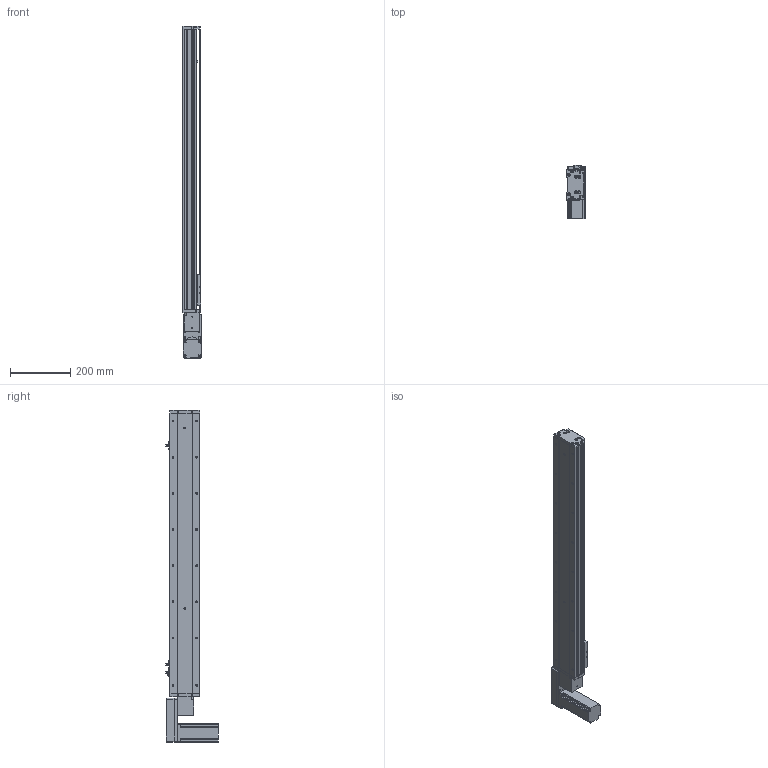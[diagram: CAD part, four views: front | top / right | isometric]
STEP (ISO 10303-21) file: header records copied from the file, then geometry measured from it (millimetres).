
FILE_DESCRIPTION (( 'STEP AP214' ), '1' );
FILE_NAME ('KSD100B-S750-MLB-CM.STEP', '2019-11-11T02:59:15', ( '微软用户' ), ( '微软中国' ), 'SwSTEP 2.0', 'SolidWorks 2014', '' );
FILE_SCHEMA (( 'AUTOMOTIVE_DESIGN' ));
Length unit declared in the file: millimetre
Products named in the file (12): 悵誘欶奻狟殏; 100宽马达安装板连板上下折丝杆同步带; 台达ECMA－C20604AS伺服电机; U倰嫖萇EEㄜSX672; 覜茼え100遵圉猾敕; 100宽防尘板750行程-同步带; 100宽马达安装板同步带左; 100宽同步带安装板半封闭; 100宽马达安装板同步带; 100遵傷啣肮祭湍; 100宽底板半封闭同步带750行程; KSD100B-S750-MLB-CM
Assembly tree (13 placements, depth 2):
  KSD100B-S750-MLB-CM
    100宽底板半封闭同步带750行程
    100遵傷啣肮祭湍
    100宽马达安装板同步带
    100宽同步带安装板半封闭
    100宽马达安装板同步带左
    100宽防尘板750行程-同步带
    覜茼え100遵圉猾敕
    U倰嫖萇EEㄜSX672  x3
    台达ECMA－C20604AS伺服电机
    100宽马达安装板连板上下折丝杆同步带
    悵誘欶奻狟殏
Bounding box: 61 x 174.7 x 1103 mm (x, y, z)
Volume: 2449271.2 mm3; surface area: 798743.7 mm2
Topology: 14 solids, 14 shells, 1401 faces, 3928 edges, 2507 vertices
Faces by surface type: cylinder 695, plane 583, cone 123
Entity records: 49149 total; most frequent: CARTESIAN_POINT 9396, DIRECTION 6796, ORIENTED_EDGE 6516, EDGE_CURVE 3258, AXIS2_PLACEMENT_3D 2477, VERTEX_POINT 2131, VECTOR 1842, LINE 1842
